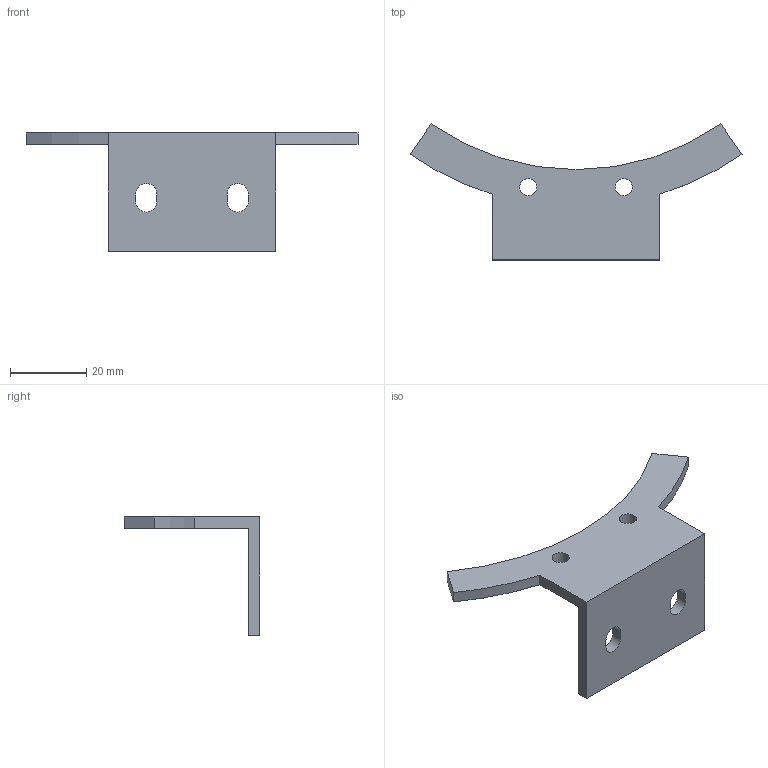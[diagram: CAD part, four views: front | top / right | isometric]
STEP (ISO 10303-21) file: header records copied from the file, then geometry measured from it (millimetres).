
FILE_DESCRIPTION(('Open CASCADE Model'),'2;1');
FILE_NAME('Open CASCADE Shape Model','2026-09-23T13:32:39',('Author'),( 'Open CASCADE'),'Open CASCADE STEP processor 7.9','Open CASCADE 7.9' ,'Unknown');
FILE_SCHEMA(('AUTOMOTIVE_DESIGN { 1 0 10303 214 1 1 1 1 }'));
Length unit declared in the file: millimetre
Products named in the file (1): Open CASCADE STEP translator 7.9 5
Bounding box: 87.18 x 35.69 x 30.99 mm (x, y, z)
Volume: 7910.2 mm3; surface area: 6335.2 mm2
Topology: 1 solids, 1 shells, 22 faces, 60 edges, 40 vertices
Faces by surface type: plane 13, cylinder 9
Full cylindrical faces by diameter (mm): 4.5 x2
Entity records: 1485 total; most frequent: CARTESIAN_POINT 302, DIRECTION 205, ORIENTED_EDGE 120, PCURVE 120, DEFINITIONAL_REPRESENTATION 120, LINE 109, VECTOR 109, EDGE_CURVE 60
